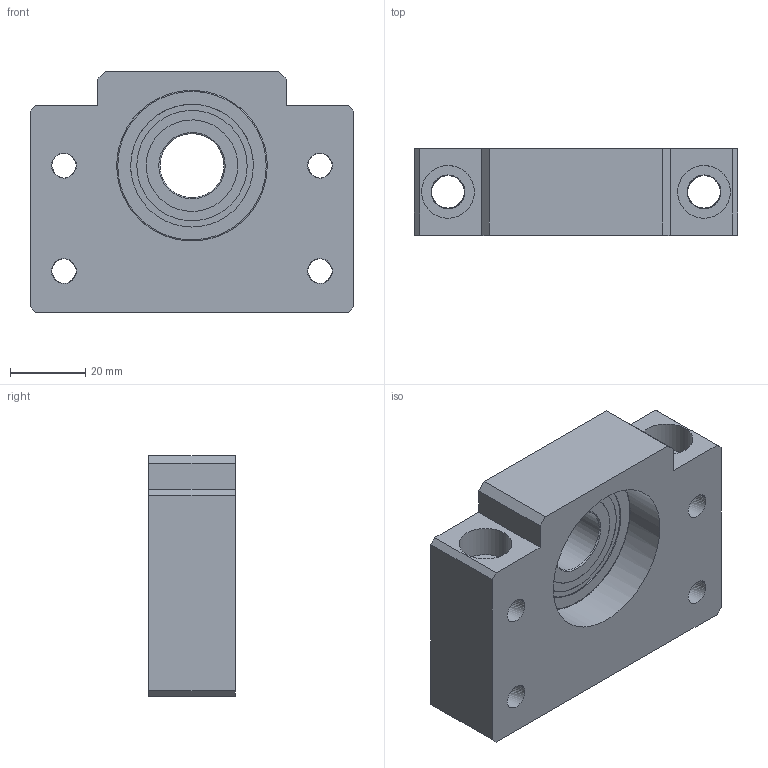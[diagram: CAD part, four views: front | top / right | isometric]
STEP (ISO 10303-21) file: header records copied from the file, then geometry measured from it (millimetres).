
FILE_DESCRIPTION( ('This file contains a STEP AP42 implementation' ,'as created by ZW3D STEP Interface translator.') ,'2;1' );
FILE_NAME( 'EFC12199-87A0-09C3-AC84-6FB903D81619.stp' ,'18 1 4.172742', (''), ('ZWCAD Software Co.'), 'Version 1.0', 'ZW3D to STEP translator', '' );
FILE_SCHEMA( ('CONFIG_CONTROL_DESIGN') );
Length unit declared in the file: millimetre
Products named in the file (4): 0; FSFBF-17; _BF 17 Part2; _BF 17 Part1
Assembly tree (2 placements, depth 2):
  0
  FSFBF-17
    _BF 17 Part2
    _BF 17 Part1
Bounding box: 86 x 23 x 64 mm (x, y, z)
Volume: 91718.2 mm3; surface area: 25593.1 mm2
Topology: 2 solids, 2 shells, 51 faces, 126 edges, 83 vertices
Faces by surface type: bspline 51
Entity records: 2355 total; most frequent: CARTESIAN_POINT 1429, ORIENTED_EDGE 252, EDGE_CURVE 126, VERTEX_POINT 83, B_SPLINE_CURVE_WITH_KNOTS 83, EDGE_LOOP 79, FACE_OUTER_BOUND 51, ADVANCED_FACE 51
